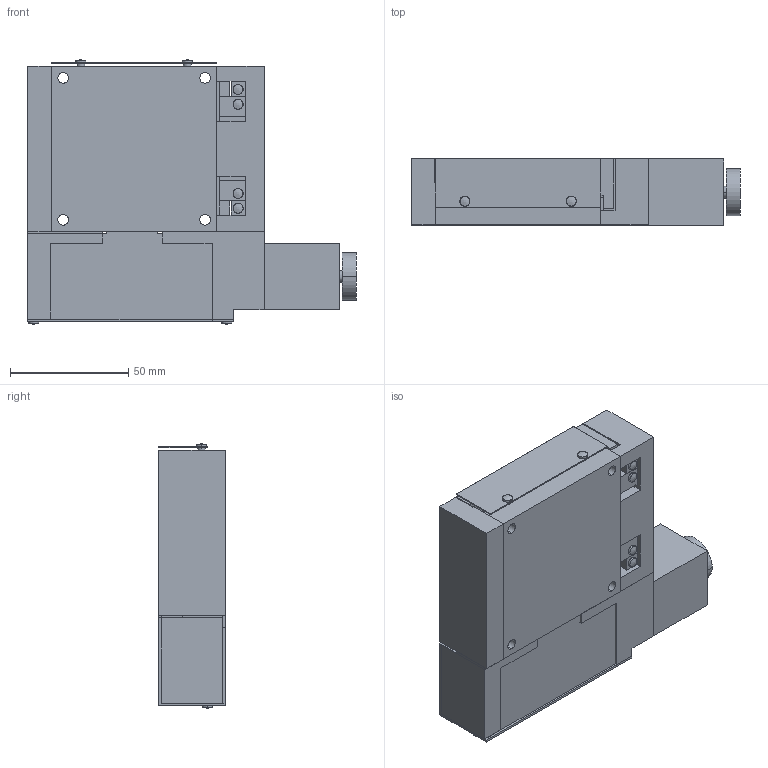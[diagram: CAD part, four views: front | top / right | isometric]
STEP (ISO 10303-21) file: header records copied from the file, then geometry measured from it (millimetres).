
FILE_DESCRIPTION (( 'STEP AP203' ), '1' );
FILE_NAME ('ALV-7003-A1P.STEP', '2025-07-15T09:02:53', ( '' ), ( '' ), 'SwSTEP 2.0', 'SolidWorks 2021', '' );
FILE_SCHEMA (( 'CONFIG_CONTROL_DESIGN' ));
Length unit declared in the file: millimetre
Products named in the file (3): ALV-7003-A1P-1_1; ALV-7003-A1P; ALV-7003-A1P-2_1
Assembly tree (2 placements, depth 2):
  ALV-7003-A1P
    ALV-7003-A1P-1_1
    ALV-7003-A1P-2_1
Bounding box: 139 x 28 x 111.81 mm (x, y, z)
Volume: 299782.1 mm3; surface area: 77928.7 mm2
Topology: 13 solids, 13 shells, 211 faces, 503 edges, 335 vertices
Faces by surface type: plane 131, cylinder 44, cone 24, bspline 12
Entity records: 8748 total; most frequent: CARTESIAN_POINT 3466, ORIENTED_EDGE 1006, DIRECTION 999, EDGE_CURVE 503, VECTOR 367, LINE 367, VERTEX_POINT 335, AXIS2_PLACEMENT_3D 316
